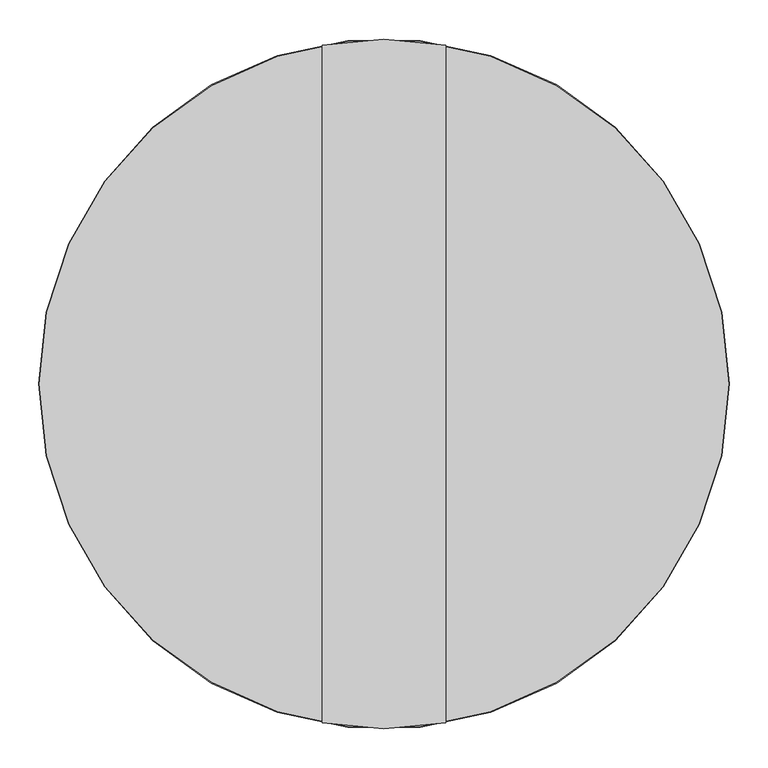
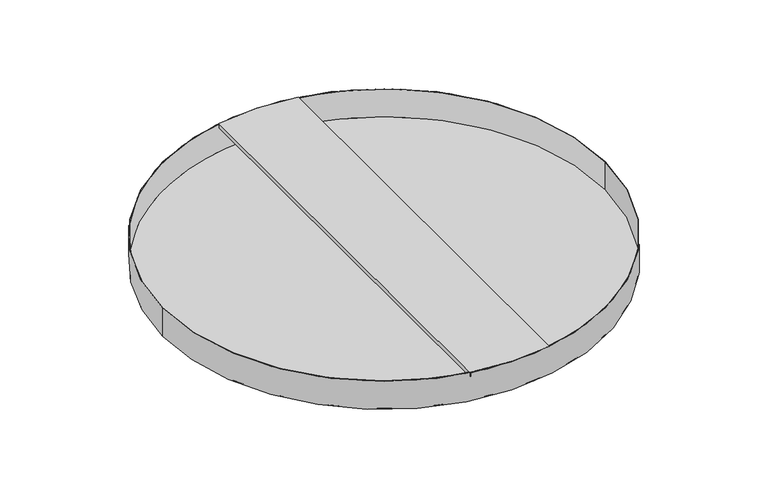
"""IFC4 building model written with IfcOpenShell, lengths in millimetres: proxy geometry, durlum_TOMEO-R : durlum_TOMEO-R 900 WS."""

from ifc_helpers import new_model, si_unit, point, frame, origin, origin_with_axes, origin_2d, place, context, project, spatial, circle_curve, trimmed, segment, composite_curve, outline, extrude, source, transform, mapped, element, save
from ifc_brep_helpers import plane_surface, cylinder_surface, advanced_brep


def generic_models_f1b6a3ca(model_context):
    return source(origin(), model_context, "Body", "SolidModel", [
        advanced_brep(
        [(-80.0, 438.2582002, 60.0), (-80.0, -438.2582002, 60.0), (0.0, -445.5, 60.0), (80.0, -438.2582002, 60.0), (80.0, 438.2582002, 60.0), (0.0, 445.5, 60.0), (80.0, -438.2582002, 51.2547795), (80.0, 438.2582002, 51.2547795), (78.5, -438.5293605, 51.2547795), (78.5, 438.5293605, 51.2547795), (78.5, -438.5293605, 58.5), (78.5, 438.5293605, 58.5), (0.0, -445.5, 58.5), (-78.5, -438.5293605, 58.5), (-78.5, 438.5293605, 58.5), (0.0, 445.5, 58.5), (-78.5, -438.5293605, 51.2547795), (-78.5, 438.5293605, 51.2547795), (-80.0, -438.2582002, 51.2547795), (-80.0, 438.2582002, 51.2547795)],
        [
            (0, 1),
            (1, 2, circle_curve(frame((0.0, 0.0, 60.0), z_axis=(0.0, 0.0, 1.0), x_axis=(0.0, -1.0, 0.0)), 445.5)),
            (2, 3, circle_curve(frame((0.0, 0.0, 60.0), z_axis=(0.0, 0.0, 1.0), x_axis=(0.0, -1.0, 0.0)), 445.5)),
            (3, 4),
            (4, 5, circle_curve(frame((0.0, 0.0, 60.0), z_axis=(0.0, 0.0, 1.0), x_axis=(0.0, -1.0, 0.0)), 445.5)),
            (5, 0, circle_curve(frame((0.0, 0.0, 60.0), z_axis=(0.0, 0.0, 1.0), x_axis=(0.0, -1.0, 0.0)), 445.5)),
            (3, 6),
            (6, 7),
            (7, 4),
            (6, 8, circle_curve(frame((0.0, 0.0, 51.2547795), z_axis=(0.0, 0.0, -1.0), x_axis=(0.0, -1.0, 0.0)), 445.5)),
            (8, 9),
            (9, 7, circle_curve(frame((0.0, 0.0, 51.2547795), z_axis=(0.0, 0.0, -1.0), x_axis=(0.0, -1.0, 0.0)), 445.5)),
            (8, 10),
            (10, 11),
            (11, 9),
            (10, 12, circle_curve(frame((0.0, 0.0, 58.5), z_axis=(0.0, 0.0, -1.0), x_axis=(0.0, -1.0, 0.0)), 445.5)),
            (12, 13, circle_curve(frame((0.0, 0.0, 58.5), z_axis=(0.0, 0.0, -1.0), x_axis=(0.0, -1.0, 0.0)), 445.5)),
            (13, 14),
            (14, 15, circle_curve(frame((0.0, 0.0, 58.5), z_axis=(0.0, 0.0, -1.0), x_axis=(0.0, -1.0, 0.0)), 445.5)),
            (15, 11, circle_curve(frame((0.0, 0.0, 58.5), z_axis=(0.0, 0.0, -1.0), x_axis=(0.0, -1.0, 0.0)), 445.5)),
            (13, 16),
            (16, 17),
            (17, 14),
            (16, 18, circle_curve(frame((0.0, 0.0, 51.2547795), z_axis=(0.0, 0.0, -1.0), x_axis=(0.0, -1.0, 0.0)), 445.5)),
            (18, 19),
            (19, 17, circle_curve(frame((0.0, 0.0, 51.2547795), z_axis=(0.0, 0.0, -1.0), x_axis=(0.0, -1.0, 0.0)), 445.5)),
            (0, 19),
            (18, 1),
            (5, 15),
            (12, 2),
        ],
        [
            plane_surface(frame((-80.0, 445.5, 60.0), z_axis=(0.0, 0.0, 1.0), x_axis=(0.0, -1.0, 0.0))),
            plane_surface(frame((80.0, 445.5, 60.0), z_axis=(1.0, 0.0, 0.0), x_axis=(0.0, -1.0, 0.0))),
            plane_surface(frame((80.0, 445.5, 51.2547795), z_axis=(0.0, 0.0, -1.0), x_axis=(0.0, -1.0, 0.0))),
            plane_surface(frame((78.5, 445.5, 51.2547795), z_axis=(-1.0, 0.0, 0.0), x_axis=(0.0, -1.0, 0.0))),
            plane_surface(frame((78.5, 445.5, 58.5), z_axis=(0.0, 0.0, -1.0), x_axis=(0.0, -1.0, 0.0))),
            plane_surface(frame((-78.5, 445.5, 58.5), z_axis=(1.0, 0.0, 0.0), x_axis=(0.0, -1.0, 0.0))),
            plane_surface(frame((-78.5, 445.5, 51.2547795), z_axis=(0.0, 0.0, -1.0), x_axis=(0.0, -1.0, 0.0))),
            plane_surface(frame((-80.0, 445.5, 51.2547795), z_axis=(-1.0, 0.0, 0.0), x_axis=(0.0, -1.0, 0.0))),
            cylinder_surface(frame((0.0, 0.0, 243.6547052), z_axis=(0.0, 0.0, -1.0), x_axis=(0.0, -1.0, 0.0)), 445.5),
        ],
        [
            (0, [[1, 2, 3, 4, 5, 6]]),
            (1, [[-4, 7, 8, 9]]),
            (2, [[-8, 10, 11, 12]]),
            (3, [[-11, 13, 14, 15]]),
            (4, [[-14, 16, 17, 18, 19, 20]]),
            (5, [[-18, 21, 22, 23]]),
            (6, [[-22, 24, 25, 26]]),
            (7, [[-1, 27, -25, 28]]),
            (8, [[29, -19, -23, -26, -27, -6]]),
            (8, [[30, -2, -28, -24, -21, -17]]),
            (8, [[-29, -5, -9, -12, -15, -20]]),
            (8, [[-30, -16, -13, -10, -7, -3]]),
        ],
    ),
        extrude(outline(composite_curve([segment(trimmed(circle_curve(origin_2d(), 445.5), [point((-445.5, 0.0))], [point((445.5, 0.0))], False, "CARTESIAN"), True, "CONTINUOUS"), segment(trimmed(circle_curve(origin_2d(), 445.5), [point((445.5, 0.0))], [point((-445.5, 0.0))], False, "CARTESIAN"), True, "CONTINUOUS")], self_intersect=False)), origin_with_axes(), (0.0, 0.0, 1.0), 1.0),
        extrude(outline(composite_curve([segment(trimmed(circle_curve(origin_2d(), 446.5), [point((-446.5, 0.0))], [point((446.5, 0.0))], False, "CARTESIAN"), True, "CONTINUOUS"), segment(trimmed(circle_curve(origin_2d(), 446.5), [point((446.5, 0.0))], [point((-446.5, 0.0))], False, "CARTESIAN"), True, "CONTINUOUS")], self_intersect=False), holes=[composite_curve([segment(trimmed(circle_curve(origin_2d(), 445.5), [point((-445.5, 0.0))], [point((445.5, 0.0))], True, "CARTESIAN"), True, "CONTINUOUS"), segment(trimmed(circle_curve(origin_2d(), 445.5), [point((445.5, 0.0))], [point((-445.5, 0.0))], True, "CARTESIAN"), True, "CONTINUOUS")], self_intersect=False)]), origin_with_axes(), (0.0, 0.0, 1.0), 60.0),
    ])


if __name__ == "__main__":
    model = new_model("IFC4")
    model_context = context("Model", 3, world=origin())
    ifc_project = project(units=[si_unit("LENGTHUNIT", "METRE", prefix="MILLI")], contexts=[model_context])
    site = spatial("IfcSite", under=ifc_project)
    building = spatial("IfcBuilding", under=site)
    placement = place(None, origin())
    generic_models_shape = generic_models_f1b6a3ca(model_context)
    element("IfcBuildingElementProxy", 1, Name="durlum_TOMEO-R : durlum_TOMEO-R 900 WS", ObjectType="durlum_TOMEO-R : durlum_TOMEO-R 900 WS", at=placement, inside=building, context=model_context, shape_type="MappedRepresentation", body=[
        mapped(generic_models_shape, transform((0.0, 0.0, 0.0), x_axis=(1.0, 0.0, 0.0), y_axis=(0.0, 1.0, 0.0), z_axis=(0.0, 0.0, 1.0))),
    ])
    save(model, "model.ifc")
